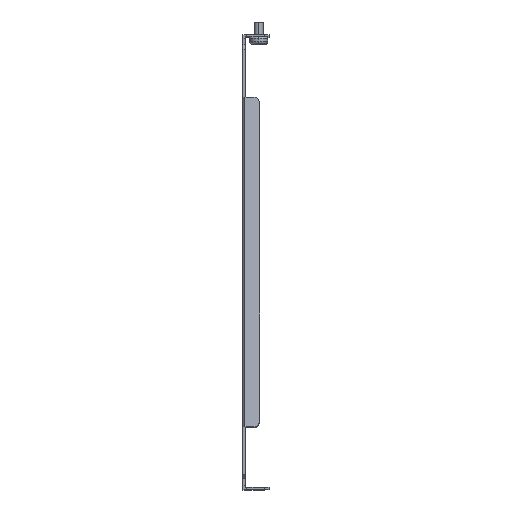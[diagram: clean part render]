
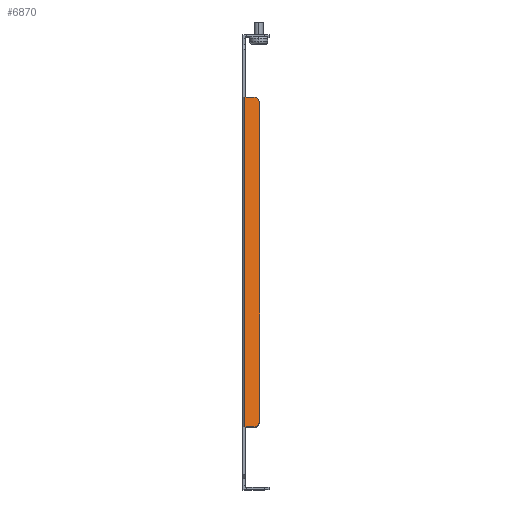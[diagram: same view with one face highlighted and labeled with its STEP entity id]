
A CAD part, top view. The second image highlights one B-rep face of the part: STEP entity #6870.
In plain terms, the highlighted planar face has unit normal (0.5, 0, 0.866).
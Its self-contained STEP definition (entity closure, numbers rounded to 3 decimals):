
#377 = CARTESIAN_POINT ( 'NONE',  ( -6.546, -109.514, 172.707 ) ) ;
#983 = EDGE_CURVE ( 'NONE', #11375, #8115, #11878, .T. ) ;
#1095 = DIRECTION ( 'NONE',  ( -0.866, 0., 0.5 ) ) ;
#1112 = DIRECTION ( 'NONE',  ( -0.866, 0., 0.5 ) ) ;
#1214 = VECTOR ( 'NONE', #1095, 1000. ) ;
#1237 = VERTEX_POINT ( 'NONE', #9904 ) ;
#1321 = DIRECTION ( 'NONE',  ( 0., -1., 0. ) ) ;
#1716 = CARTESIAN_POINT ( 'NONE',  ( -4.296, 111.986, 171.408 ) ) ;
#1885 = VERTEX_POINT ( 'NONE', #11068 ) ;
#1895 = VERTEX_POINT ( 'NONE', #1716 ) ;
#1954 = CARTESIAN_POINT ( 'NONE',  ( -4.296, 111.986, 171.408 ) ) ;
#2124 = CARTESIAN_POINT ( 'NONE',  ( 65.942, -109.514, 130.856 ) ) ;
#2252 = ORIENTED_EDGE ( 'NONE', *, *, #12022, .T. ) ;
#2347 = VERTEX_POINT ( 'NONE', #5277 ) ;
#2372 = VECTOR ( 'NONE', #8829, 1000. ) ;
#2747 = LINE ( 'NONE', #2124, #10807 ) ;
#2796 = ORIENTED_EDGE ( 'NONE', *, *, #3714, .F. ) ;
#2817 = PLANE ( 'NONE',  #5350 ) ;
#3115 = LINE ( 'NONE', #6830, #5747 ) ;
#3239 = ORIENTED_EDGE ( 'NONE', *, *, #5843, .F. ) ;
#3288 = CARTESIAN_POINT ( 'NONE',  ( -4.296, -109.514, 171.408 ) ) ;
#3714 = EDGE_CURVE ( 'NONE', #9545, #1237, #2747, .T. ) ;
#3865 = LINE ( 'NONE', #11406, #11390 ) ;
#4073 = LINE ( 'NONE', #1954, #1214 ) ;
#4235 = CARTESIAN_POINT ( 'NONE',  ( 2.606, -109.514, 167.423 ) ) ;
#4831 = CARTESIAN_POINT ( 'NONE',  ( 65.942, 1.236, 130.856 ) ) ;
#5164 = EDGE_LOOP ( 'NONE', ( #11421, #2252, #2796, #9664, #10788, #6895, #9540, #3239 ) ) ;
#5277 = CARTESIAN_POINT ( 'NONE',  ( 0.008, -109.514, 168.923 ) ) ;
#5350 = AXIS2_PLACEMENT_3D ( 'NONE', #4831, #6603, #10235 ) ;
#5583 = EDGE_CURVE ( 'NONE', #1895, #1885, #4073, .T. ) ;
#5747 = VECTOR ( 'NONE', #10528, 1000. ) ;
#5828 = DIRECTION ( 'NONE',  ( -0.866, 0., 0.5 ) ) ;
#5843 = EDGE_CURVE ( 'NONE', #1895, #6473, #10197, .T. ) ;
#5859 = LINE ( 'NONE', #7859, #2372 ) ;
#6473 = VERTEX_POINT ( 'NONE', #7031 ) ;
#6542 = FACE_OUTER_BOUND ( 'NONE', #5164, .T. ) ;
#6603 = DIRECTION ( 'NONE',  ( -0.5, 0., -0.866 ) ) ;
#6830 = CARTESIAN_POINT ( 'NONE',  ( -7.528, 1.236, 173.274 ) ) ;
#6870 = ADVANCED_FACE ( 'NONE', ( #6542 ), #2817, .F. ) ;
#6895 = ORIENTED_EDGE ( 'NONE', *, *, #983, .F. ) ;
#6958 = CARTESIAN_POINT ( 'NONE',  ( 2.606, -106.514, 167.423 ) ) ;
#7031 = CARTESIAN_POINT ( 'NONE',  ( 0.008, 111.986, 168.923 ) ) ;
#7233 = VECTOR ( 'NONE', #10147, 1000. ) ;
#7583 = DIRECTION ( 'NONE',  ( 0.612, 0.707, -0.354 ) ) ;
#7859 = CARTESIAN_POINT ( 'NONE',  ( 0.008, 111.986, 168.923 ) ) ;
#8075 = VECTOR ( 'NONE', #1321, 1000. ) ;
#8115 = VERTEX_POINT ( 'NONE', #6958 ) ;
#8142 = EDGE_CURVE ( 'NONE', #11375, #6473, #5859, .T. ) ;
#8824 = EDGE_CURVE ( 'NONE', #2347, #8115, #3865, .T. ) ;
#8829 = DIRECTION ( 'NONE',  ( -0.612, 0.707, 0.354 ) ) ;
#9540 = ORIENTED_EDGE ( 'NONE', *, *, #8142, .T. ) ;
#9545 = VERTEX_POINT ( 'NONE', #3288 ) ;
#9554 = LINE ( 'NONE', #377, #10016 ) ;
#9664 = ORIENTED_EDGE ( 'NONE', *, *, #11949, .F. ) ;
#9904 = CARTESIAN_POINT ( 'NONE',  ( -7.528, -109.514, 173.274 ) ) ;
#10016 = VECTOR ( 'NONE', #1112, 1000. ) ;
#10147 = DIRECTION ( 'NONE',  ( 0.866, 0., -0.5 ) ) ;
#10197 = LINE ( 'NONE', #10941, #7233 ) ;
#10235 = DIRECTION ( 'NONE',  ( -0.866, 0., 0.5 ) ) ;
#10528 = DIRECTION ( 'NONE',  ( 0., -1., 0. ) ) ;
#10788 = ORIENTED_EDGE ( 'NONE', *, *, #8824, .T. ) ;
#10807 = VECTOR ( 'NONE', #5828, 1000. ) ;
#10941 = CARTESIAN_POINT ( 'NONE',  ( 2.606, 111.986, 167.423 ) ) ;
#11059 = CARTESIAN_POINT ( 'NONE',  ( 2.606, 108.986, 167.423 ) ) ;
#11068 = CARTESIAN_POINT ( 'NONE',  ( -7.528, 111.986, 173.274 ) ) ;
#11375 = VERTEX_POINT ( 'NONE', #11059 ) ;
#11390 = VECTOR ( 'NONE', #7583, 1000. ) ;
#11406 = CARTESIAN_POINT ( 'NONE',  ( 2.606, -106.514, 167.423 ) ) ;
#11421 = ORIENTED_EDGE ( 'NONE', *, *, #5583, .T. ) ;
#11878 = LINE ( 'NONE', #4235, #8075 ) ;
#11949 = EDGE_CURVE ( 'NONE', #2347, #9545, #9554, .T. ) ;
#12022 = EDGE_CURVE ( 'NONE', #1885, #1237, #3115, .T. ) ;
